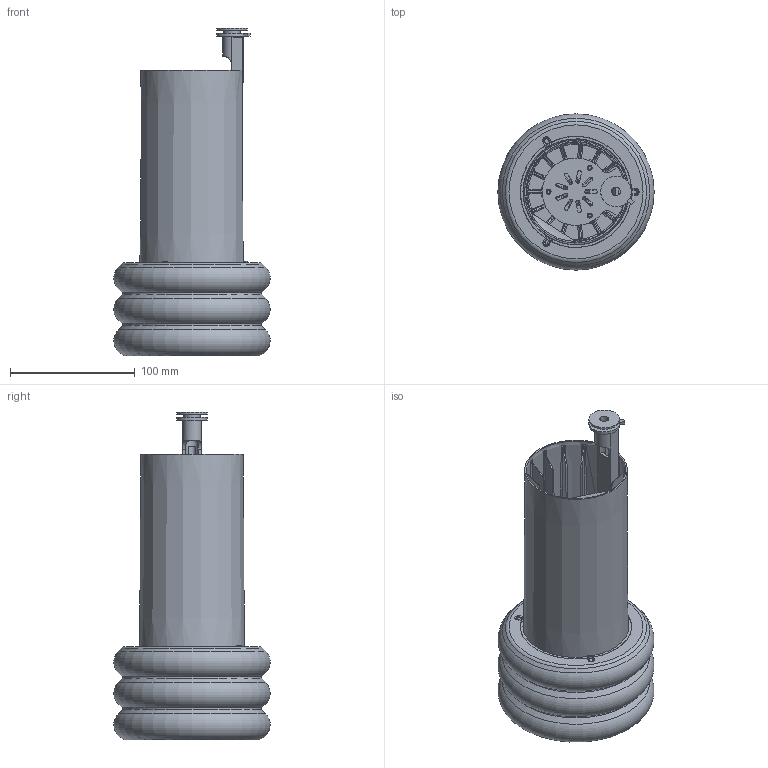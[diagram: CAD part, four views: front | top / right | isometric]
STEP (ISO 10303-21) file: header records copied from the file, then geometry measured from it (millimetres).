
FILE_DESCRIPTION(/* description */ ('STEP AP214'),/* implementation_level */ '2;1');
FILE_NAME(/* name */ 'Casto modules - Loops.step',/* time_stamp */ '2026-10-13T10:06:13+02:00',/* author */ (''),/* organization */ (''),/* preprocessor_version */ 'ST-DEVELOPER v20.2',/* originating_system */ 'Autodesk Translation Framework v15.15.0.0',/* authorisation */ '');
FILE_SCHEMA (('AUTOMOTIVE_DESIGN { 1 0 10303 214 3 1 1 }'));
Length unit declared in the file: millimetre
Products named in the file (16): Expo wysoki UGR; expo; nypel track; DR0002489A1007_forma1; 92.70.131.00; DR0002489A1005_forma1; DR0002489A1003_forma1; 2-1674-M; DR0002489A1004_forma1; 16208807_02_(LES15).stp; 2026-08-11-08-22-23-976; 2026-08-12-13-28-39-633; 2026-08-05-12-24-31-079; 2026-08-05-12-24-31-080; 2026-08-13-05-20-13-833; 2026-08-13-03-34-55-201
Assembly tree (15 placements, depth 4):
  Expo wysoki UGR
    expo
      nypel track
      DR0002489A1007_forma1
      92.70.131.00
      DR0002489A1005_forma1
      DR0002489A1003_forma1
      2-1674-M
      DR0002489A1004_forma1
      16208807_02_(LES15).stp
    2026-08-11-08-22-23-976
    2026-08-12-13-28-39-633
      2026-08-05-12-24-31-079
        2026-08-05-12-24-31-080
      2026-08-13-05-20-13-833
        2026-08-13-03-34-55-201
Bounding box: 124.98 x 124.98 x 262.34 mm (x, y, z)
Volume: 377387.9 mm3; surface area: 277095.5 mm2
Topology: 13 solids, 13 shells, 1015 faces, 2827 edges, 1850 vertices
Faces by surface type: cylinder 472, plane 232, bspline 223, cone 46, torus 36, sphere 6
Full cylindrical faces by diameter (mm): 0.725 x1, 2.542 x48, 2.759 x20, 3.3 x74, 4 x3, 4.2 x3, 6 x1, 7 x2, 8.917 x9, 10 x11, 13 x1, 15 x2, 16.5 x1, 17.5 x1, 24.5 x1, 45 x1, 74 x1, 75 x1, 76 x1, 77.835 x14, 80 x15, 84.9 x2, 88.8 x1, 89.1 x1
Entity records: 110230 total; most frequent: CARTESIAN_POINT 86192, ORIENTED_EDGE 5652, DIRECTION 4091, EDGE_CURVE 2826, VERTEX_POINT 1850, AXIS2_PLACEMENT_3D 1553, EDGE_LOOP 1084, FACE_OUTER_BOUND 1015
